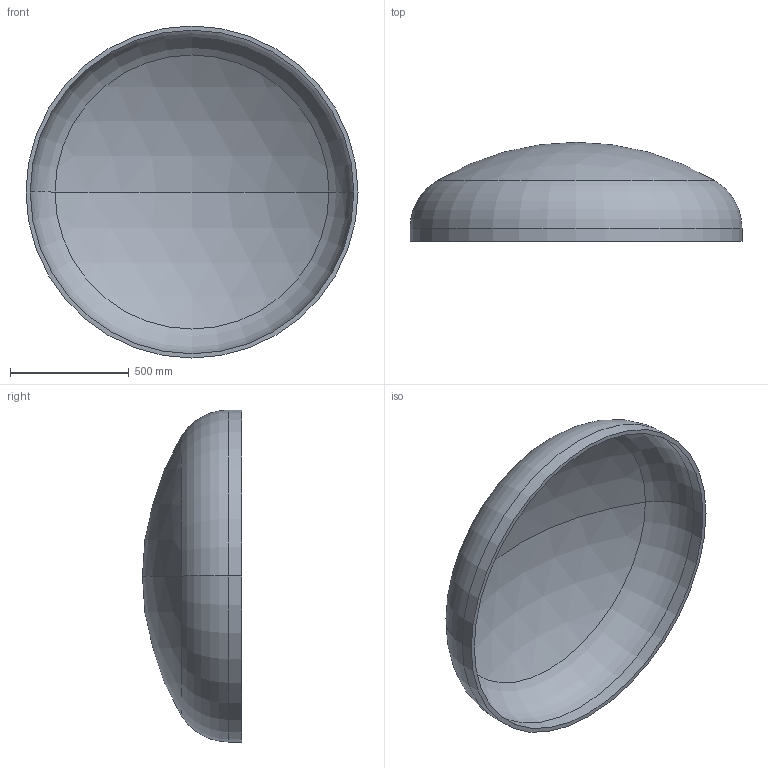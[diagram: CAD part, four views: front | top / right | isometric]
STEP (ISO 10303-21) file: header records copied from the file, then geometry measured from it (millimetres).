
FILE_DESCRIPTION (( 'STEP AP203' ), '1' );
FILE_NAME ('DIN 28013 Korbbogenform_-_Boden DIN 28013 - 1400 x 55 - I - s=18.step', '2016-07-01T10:10:23', ( '' ), ( '' ), 'SwSTEP 2.0', 'SolidWorks 2013', '' );
FILE_SCHEMA (( 'CONFIG_CONTROL_DESIGN' ));
Length unit declared in the file: millimetre
Products named in the file (1): DIN 28013 Korbbogenform_-_Boden DIN 28013 - 1400 x 55 - I - s=18
Bounding box: 1400 x 417.8 x 1400 mm (x, y, z)
Volume: 42007262.3 mm3; surface area: 4746300.8 mm2
Topology: 1 solids, 1 shells, 13 faces, 24 edges, 14 vertices
Faces by surface type: torus 4, cylinder 4, sphere 4, plane 1
Entity records: 407 total; most frequent: DIRECTION 72, CARTESIAN_POINT 52, ORIENTED_EDGE 48, AXIS2_PLACEMENT_3D 34, EDGE_CURVE 24, CIRCLE 20, EDGE_LOOP 14, VERTEX_POINT 14
